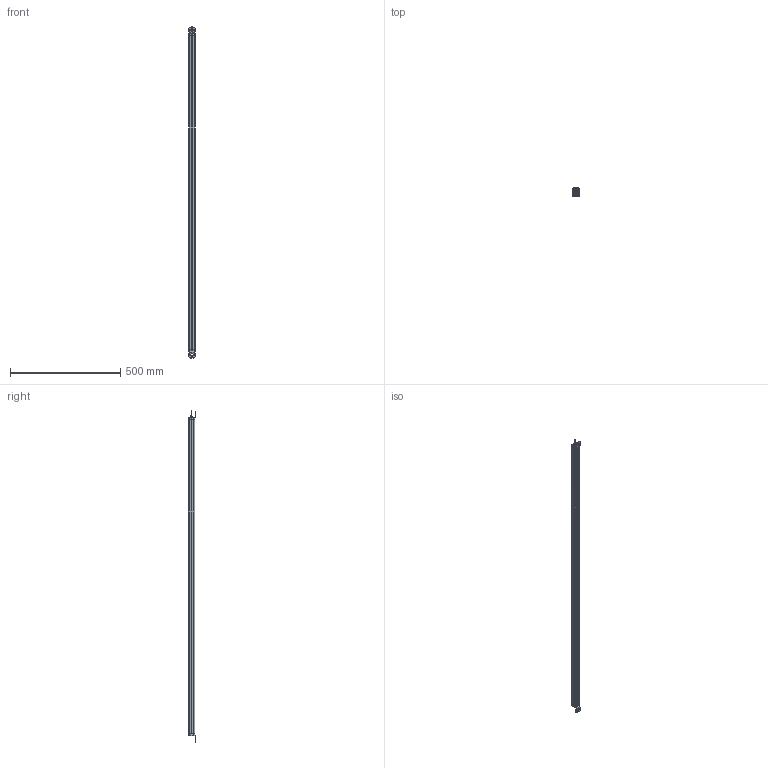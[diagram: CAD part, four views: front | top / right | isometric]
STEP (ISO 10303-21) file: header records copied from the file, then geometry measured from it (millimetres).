
FILE_DESCRIPTION (( 'STEP AP203' ), '1' );
FILE_NAME ('KT40-361400.STEP', '2022-08-26T02:26:15', ( '微软用户' ), ( '微软中国' ), 'SwSTEP 2.0', 'SolidWorks 2020', '' );
FILE_SCHEMA (( 'CONFIG_CONTROL_DESIGN' ));
Length unit declared in the file: millimetre
Products named in the file (4): KT40-361400; 光同步29X29 出线塑料盖1; 29x29倰第; 光同步29X29 出线塑料盖2
Assembly tree (3 placements, depth 2):
  KT40-361400
    29x29倰第
    光同步29X29 出线塑料盖1
    光同步29X29 出线塑料盖2
Bounding box: 30 x 34 x 1505 mm (x, y, z)
Volume: 1070054.5 mm3; surface area: 212709.2 mm2
Topology: 4 solids, 12 shells, 661 faces, 1760 edges, 1138 vertices
Faces by surface type: cylinder 299, plane 269, bspline 54, cone 39
Entity records: 30323 total; most frequent: CARTESIAN_POINT 13492, ORIENTED_EDGE 3510, DIRECTION 3352, EDGE_CURVE 1758, AXIS2_PLACEMENT_3D 1220, VERTEX_POINT 1138, VECTOR 912, LINE 912
